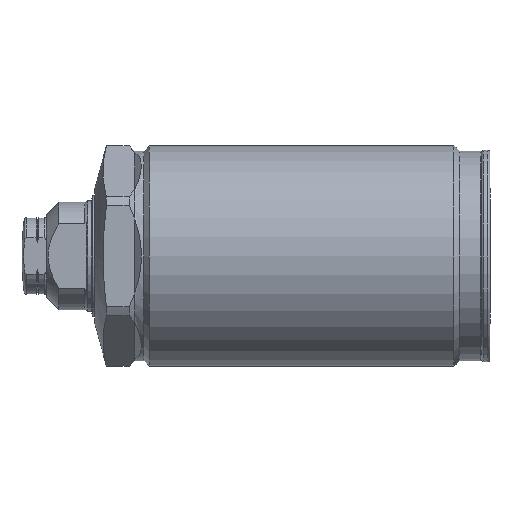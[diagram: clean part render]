
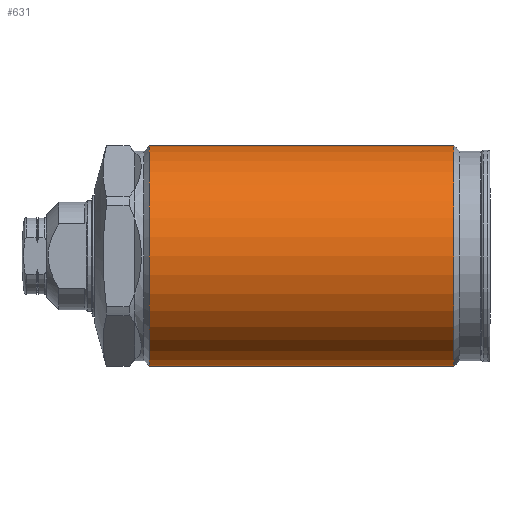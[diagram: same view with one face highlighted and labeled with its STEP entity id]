
A CAD part, left-side view. The second image highlights one B-rep face of the part: STEP entity #631.
In plain terms, the highlighted cylindrical face has radius 18 mm (diameter 36 mm), a full revolution.
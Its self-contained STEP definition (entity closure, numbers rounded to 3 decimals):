
#275=CYLINDRICAL_SURFACE('',#2450,18.);
#458=LINE('',#3741,#543);
#459=LINE('',#3746,#544);
#543=VECTOR('',#2866,1.);
#544=VECTOR('',#2869,1.);
#631=ADVANCED_FACE('',(#833,#834),#275,.T.);
#833=FACE_BOUND('',#887,.T.);
#834=FACE_BOUND('',#888,.T.);
#887=EDGE_LOOP('',(#1114));
#888=EDGE_LOOP('',(#1115,#1116,#1117,#1118,#1119,#1120));
#1114=ORIENTED_EDGE('',*,*,#1944,.T.);
#1115=ORIENTED_EDGE('',*,*,#1945,.T.);
#1116=ORIENTED_EDGE('',*,*,#1945,.F.);
#1117=ORIENTED_EDGE('',*,*,#1946,.F.);
#1118=ORIENTED_EDGE('',*,*,#1947,.T.);
#1119=ORIENTED_EDGE('',*,*,#1947,.F.);
#1120=ORIENTED_EDGE('',*,*,#1948,.F.);
#1730=VERTEX_POINT('',#3740);
#1731=VERTEX_POINT('',#3742);
#1732=VERTEX_POINT('',#3743);
#1733=VERTEX_POINT('',#3745);
#1734=VERTEX_POINT('',#3747);
#1944=EDGE_CURVE('',#1730,#1730,#2236,.T.);
#1945=EDGE_CURVE('',#1731,#1732,#458,.T.);
#1946=EDGE_CURVE('',#1733,#1731,#2237,.T.);
#1947=EDGE_CURVE('',#1733,#1734,#459,.T.);
#1948=EDGE_CURVE('',#1731,#1733,#2238,.T.);
#2236=CIRCLE('',#2447,18.);
#2237=CIRCLE('',#2448,18.);
#2238=CIRCLE('',#2449,18.);
#2447=AXIS2_PLACEMENT_3D('',#3739,#2864,#2865);
#2448=AXIS2_PLACEMENT_3D('',#3744,#2867,#2868);
#2449=AXIS2_PLACEMENT_3D('',#3748,#2870,#2871);
#2450=AXIS2_PLACEMENT_3D('',#3749,#2872,#2873);
#2864=DIRECTION('',(0.,-1.,0.));
#2865=DIRECTION('',(0.,0.,-1.));
#2866=DIRECTION('',(0.,1.,0.));
#2867=DIRECTION('',(0.,-1.,0.));
#2868=DIRECTION('',(0.,0.,-1.));
#2869=DIRECTION('',(0.,1.,0.));
#2870=DIRECTION('',(0.,-1.,0.));
#2871=DIRECTION('',(0.,0.,-1.));
#2872=DIRECTION('',(0.,-1.,0.));
#2873=DIRECTION('',(0.,0.,-1.));
#3739=CARTESIAN_POINT('',(0.,54.3,0.));
#3740=CARTESIAN_POINT('',(0.,54.3,-18.));
#3741=CARTESIAN_POINT('',(0.,0.,18.));
#3742=CARTESIAN_POINT('',(0.,4.6,18.));
#3743=CARTESIAN_POINT('',(0.,49.058,18.));
#3744=CARTESIAN_POINT('',(0.,4.6,0.));
#3745=CARTESIAN_POINT('',(0.,4.6,-18.));
#3746=CARTESIAN_POINT('',(0.,0.,-18.));
#3747=CARTESIAN_POINT('',(0.,49.058,-18.));
#3748=CARTESIAN_POINT('',(0.,4.6,0.));
#3749=CARTESIAN_POINT('',(0.,0.,0.));
